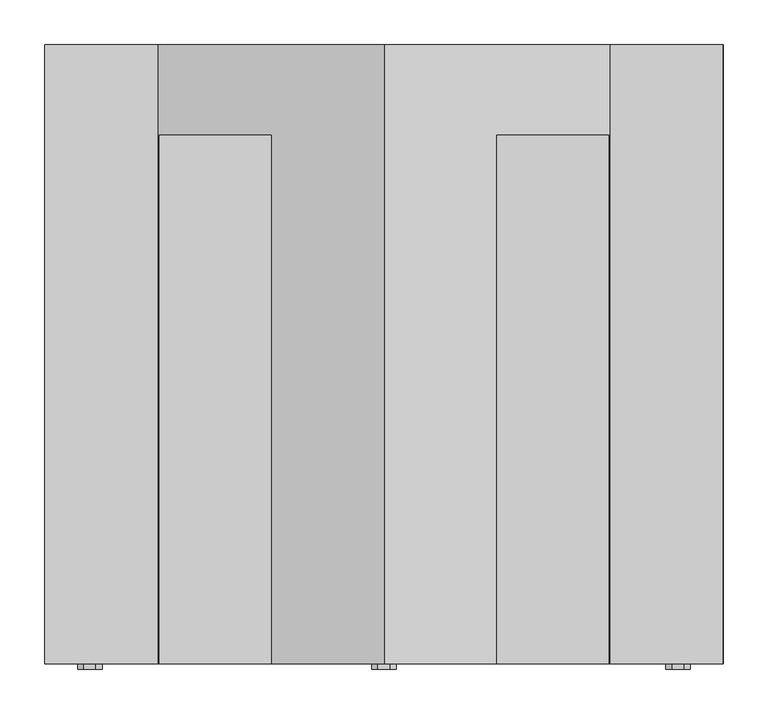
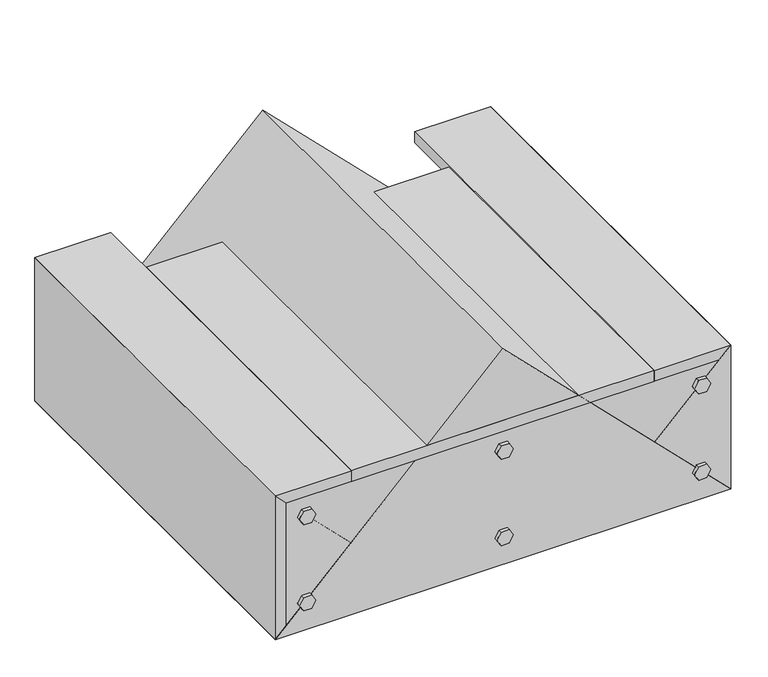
"""IFC4 building model written with IfcOpenShell, lengths in millimetres: proxy geometry, IMPRESS^TABLE 3_10X30 END BASE-ASSEMBLY."""

from ifc_helpers import new_model, si_unit, frame, origin, place, context, project, spatial, polyline, outline, extrude, source, transform, mapped, element, save


def generic_models_c415d296(model_context):
    return source(origin(), model_context, "Body", "SweptSolid", [
        extrude(outline(polyline([(-62.70625, 374.1259234), (-62.70625, 387.8740766), (-50.8, 394.7481533), (-38.89375, 387.8740766), (-38.89375, 374.1259234), (-50.8, 367.2518467), (-62.70625, 374.1259234)])), frame((0.0, -6.35, 0.0), z_axis=(0.0, 1.0, 0.0), x_axis=(0.0, 0.0, 1.0)), (0.0, 0.0, 1.0), 6.35),
        extrude(outline(polyline([(633.4125, 0.0), (128.5875, 0.0), (128.5875, 593.725), (633.4125, 593.725), (633.4125, 0.0)])), frame((0.0, 0.0, -19.05), z_axis=(0.0, 0.0, 1.0), x_axis=(1.0, 0.0, 0.0)), (0.0, 0.0, 1.0), 19.05),
        extrude(outline(polyline([(-127.0, 635.0), (-254.0, 762.0), (0.0, 762.0), (-127.0, 635.0)])), frame((0.0, 0.0, 0.0), z_axis=(0.0, 1.0, 0.0), x_axis=(0.0, 0.0, 1.0)), (0.0, 0.0, 1.0), 695.325),
        extrude(outline(polyline([(-254.0, 0.0), (-254.0, 762.0), (127.0, 381.0), (-254.0, 0.0)])), frame((0.0, 0.0, 0.0), z_axis=(0.0, 1.0, 0.0), x_axis=(0.0, 0.0, 1.0)), (0.0, 0.0, 1.0), 695.325),
        extrude(outline(polyline([(0.0, 127.0), (0.0, 0.0), (-19.05, 19.05), (-19.05, 127.0), (0.0, 127.0)])), frame((0.0, 0.0, 0.0), z_axis=(0.0, 1.0, 0.0), x_axis=(0.0, 0.0, 1.0)), (0.0, 0.0, 1.0), 695.325),
        extrude(outline(polyline([(-215.10625, 374.1259234), (-215.10625, 387.8740766), (-203.2, 394.7481533), (-191.29375, 387.8740766), (-191.29375, 374.1259234), (-203.2, 367.2518467), (-215.10625, 374.1259234)])), frame((0.0, -6.35, 0.0), z_axis=(0.0, 1.0, 0.0), x_axis=(0.0, 0.0, 1.0)), (0.0, 0.0, 1.0), 6.35),
        extrude(outline(polyline([(-62.70625, 704.3259234), (-62.70625, 718.0740766), (-50.8, 724.9481533), (-38.89375, 718.0740766), (-38.89375, 704.3259234), (-50.8, 697.4518467), (-62.70625, 704.3259234)])), frame((0.0, -6.35, 0.0), z_axis=(0.0, 1.0, 0.0), x_axis=(0.0, 0.0, 1.0)), (0.0, 0.0, 1.0), 6.35),
        extrude(outline(polyline([(-19.05, 635.0), (-19.05, 742.95), (0.0, 762.0), (0.0, 635.0), (-19.05, 635.0)])), frame((0.0, 0.0, 0.0), z_axis=(0.0, 1.0, 0.0), x_axis=(0.0, 0.0, 1.0)), (0.0, 0.0, 1.0), 695.325),
        extrude(outline(polyline([(742.95, 0.0), (19.05, 0.0), (19.05, 25.4), (742.95, 25.4), (742.95, 0.0)])), frame((0.0, 0.0, -234.95), z_axis=(0.0, 0.0, 1.0), x_axis=(1.0, 0.0, 0.0)), (0.0, 0.0, 1.0), 215.9),
        extrude(outline(polyline([(-62.70625, 43.9259234), (-62.70625, 57.6740766), (-50.8, 64.5481533), (-38.89375, 57.6740766), (-38.89375, 43.9259234), (-50.8, 37.0518467), (-62.70625, 43.9259234)])), frame((0.0, -6.35, 0.0), z_axis=(0.0, 1.0, 0.0), x_axis=(0.0, 0.0, 1.0)), (0.0, 0.0, 1.0), 6.35),
        extrude(outline(polyline([(-215.10625, 43.9259234), (-215.10625, 57.6740766), (-203.2, 64.5481533), (-191.29375, 57.6740766), (-191.29375, 43.9259234), (-203.2, 37.0518467), (-215.10625, 43.9259234)])), frame((0.0, -6.35, 0.0), z_axis=(0.0, 1.0, 0.0), x_axis=(0.0, 0.0, 1.0)), (0.0, 0.0, 1.0), 6.35),
        extrude(outline(polyline([(-215.10625, 704.3259234), (-215.10625, 718.0740766), (-203.2, 724.9481533), (-191.29375, 718.0740766), (-191.29375, 704.3259234), (-203.2, 697.4518467), (-215.10625, 704.3259234)])), frame((0.0, -6.35, 0.0), z_axis=(0.0, 1.0, 0.0), x_axis=(0.0, 0.0, 1.0)), (0.0, 0.0, 1.0), 6.35),
        extrude(outline(polyline([(-127.0, 127.0), (0.0, 0.0), (-254.0, 0.0), (-127.0, 127.0)])), frame((0.0, 0.0, 0.0), z_axis=(0.0, 1.0, 0.0), x_axis=(0.0, 0.0, 1.0)), (0.0, 0.0, 1.0), 695.325),
    ])


if __name__ == "__main__":
    model = new_model("IFC4")
    model_context = context("Model", 3, world=origin())
    ifc_project = project(units=[si_unit("LENGTHUNIT", "METRE", prefix="MILLI")], contexts=[model_context])
    site = spatial("IfcSite", under=ifc_project)
    building = spatial("IfcBuilding", under=site)
    placement = place(None, origin())
    generic_models_shape = generic_models_c415d296(model_context)
    element("IfcBuildingElementProxy", 1, Name="IMPRESS^TABLE 3_10X30 END BASE-ASSEMBLY", ObjectType="IMPRESS^TABLE 3_10X30 END BASE-ASSEMBLY", at=placement, inside=building, context=model_context, shape_type="MappedRepresentation", body=[
        mapped(generic_models_shape, transform((0.0, 0.0, 0.0), x_axis=(1.0, 0.0, 0.0), y_axis=(0.0, 1.0, 0.0), z_axis=(0.0, 0.0, 1.0))),
    ])
    save(model, "model.ifc")
